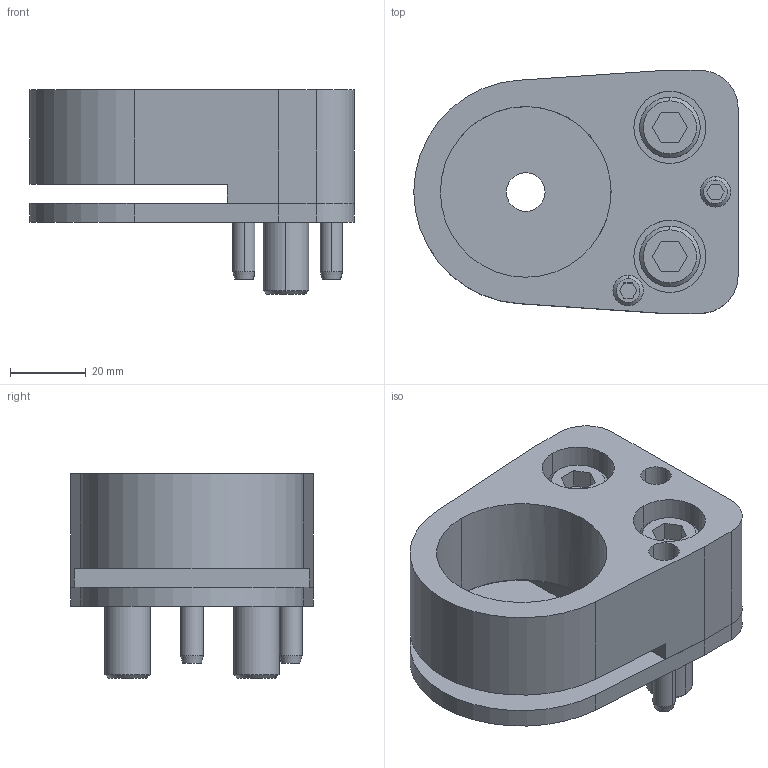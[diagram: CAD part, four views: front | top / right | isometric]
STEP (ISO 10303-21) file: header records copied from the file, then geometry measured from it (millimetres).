
FILE_DESCRIPTION(/* description */ (''),/* implementation_level */ '2;1');
FILE_NAME(/* name */ '3d_cp-fp45_03606_r00.stp',/* time_stamp */ '2011-01-10T14:16:27+09:00',/* author */ ('MISUMI'),/* organization */ (''),/* preprocessor_version */ 'ST-DEVELOPER v11',/* originating_system */ 'UGS - NX 5.0',/* authorisation */ '');
FILE_SCHEMA (('CONFIG_CONTROL_DESIGN'));
Length unit declared in the file: millimetre
Products named in the file (1): 3d_cp-fp45_03606_r00
Bounding box: 85.5 x 64 x 54 mm (x, y, z)
Volume: 112885.9 mm3; surface area: 39002.3 mm2
Topology: 8 solids, 8 shells, 155 faces, 354 edges, 228 vertices
Faces by surface type: plane 68, cylinder 60, cone 25, bspline 2
Entity records: 5049 total; most frequent: CARTESIAN_POINT 1327, DIRECTION 793, ORIENTED_EDGE 708, EDGE_CURVE 354, AXIS2_PLACEMENT_3D 298, VERTEX_POINT 228, LINE 197, VECTOR 197
